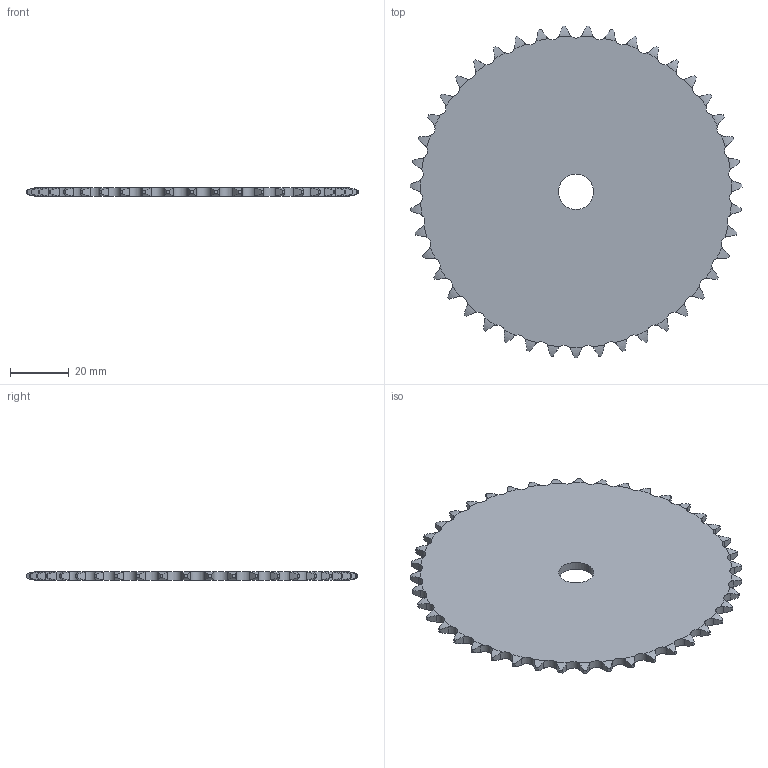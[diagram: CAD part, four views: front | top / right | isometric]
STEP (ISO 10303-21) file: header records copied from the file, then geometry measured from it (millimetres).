
FILE_DESCRIPTION((''),'2;1');
FILE_NAME('500-081-0043_PRT','2021-02-12T',('Brieden'),('Brieden'),'PRO/ENGINEER BY PARAMETRIC TECHNOLOGY CORPORATION, 2010160','PRO/ENGINEER BY PARAMETRIC TECHNOLOGY CORPORATION, 2010160','');
FILE_SCHEMA(('AUTOMOTIVE_DESIGN { 1 0 10303 214 1 1 1 1 }'));
Length unit declared in the file: millimetre
Products named in the file (1): 500-081-0043_PRT
Bounding box: 112.85 x 112.77 x 2.8 mm (x, y, z)
Volume: 25083.7 mm3; surface area: 19406.9 mm2
Topology: 1 solids, 1 shells, 262 faces, 780 edges, 520 vertices
Faces by surface type: cylinder 174, torus 86, plane 2
Entity records: 12256 total; most frequent: CARTESIAN_POINT 3229, ORIENTED_EDGE 1560, DIRECTION 1222, PRESENTATION_STYLE_ASSIGNMENT 781, STYLED_ITEM 781, CURVE_STYLE 780, EDGE_CURVE 780, AXIS2_PLACEMENT_3D 524
